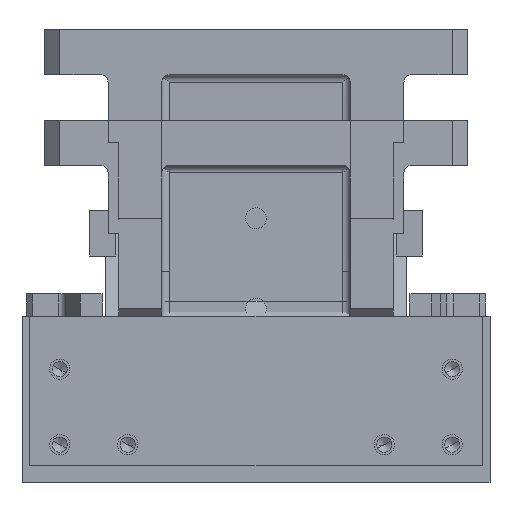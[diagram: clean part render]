
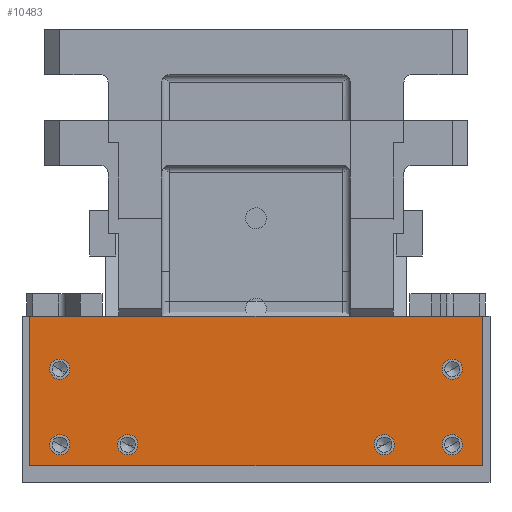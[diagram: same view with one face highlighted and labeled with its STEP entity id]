
A CAD part, left-side view. The second image highlights one B-rep face of the part: STEP entity #10483.
In plain terms, the highlighted planar face has unit normal (-1, 0, 0).
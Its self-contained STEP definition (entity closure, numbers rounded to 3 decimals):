
#8514=CARTESIAN_POINT('Vertex',(-12.,150.,110.)) ;
#8517=CARTESIAN_POINT('Line Origine',(-12.,0.,110.)) ;
#8521=CARTESIAN_POINT('Vertex',(-12.,-150.,110.)) ;
#10332=CARTESIAN_POINT('Vertex',(-12.,90.924,28.236)) ;
#10339=CARTESIAN_POINT('Vertex',(-12.,79.076,21.764)) ;
#10342=CARTESIAN_POINT('Axis2P3D Location',(-12.,85.,25.)) ;
#10354=CARTESIAN_POINT('Axis2P3D Location',(-12.,0.,0.)) ;
#10359=CARTESIAN_POINT('Line Origine',(-12.,150.,60.5)) ;
#10363=CARTESIAN_POINT('Vertex',(-12.,150.,11.)) ;
#10366=CARTESIAN_POINT('Line Origine',(-12.,0.,11.)) ;
#10370=CARTESIAN_POINT('Vertex',(-12.,-150.,11.)) ;
#10373=CARTESIAN_POINT('Line Origine',(-12.,-150.,60.5)) ;
#10384=CARTESIAN_POINT('Axis2P3D Location',(-12.,-130.,25.)) ;
#10388=CARTESIAN_POINT('Vertex',(-12.,-135.924,28.236)) ;
#10390=CARTESIAN_POINT('Vertex',(-12.,-124.076,21.764)) ;
#10393=CARTESIAN_POINT('Axis2P3D Location',(-12.,-130.,25.)) ;
#10402=CARTESIAN_POINT('Axis2P3D Location',(-12.,-130.,75.)) ;
#10406=CARTESIAN_POINT('Vertex',(-12.,-135.924,78.236)) ;
#10408=CARTESIAN_POINT('Vertex',(-12.,-124.076,71.764)) ;
#10411=CARTESIAN_POINT('Axis2P3D Location',(-12.,-130.,75.)) ;
#10420=CARTESIAN_POINT('Axis2P3D Location',(-12.,-85.,25.)) ;
#10424=CARTESIAN_POINT('Vertex',(-12.,-90.924,28.236)) ;
#10426=CARTESIAN_POINT('Vertex',(-12.,-79.076,21.764)) ;
#10429=CARTESIAN_POINT('Axis2P3D Location',(-12.,-85.,25.)) ;
#10438=CARTESIAN_POINT('Axis2P3D Location',(-12.,130.,25.)) ;
#10442=CARTESIAN_POINT('Vertex',(-12.,135.924,28.236)) ;
#10444=CARTESIAN_POINT('Vertex',(-12.,124.076,21.764)) ;
#10447=CARTESIAN_POINT('Axis2P3D Location',(-12.,130.,25.)) ;
#10456=CARTESIAN_POINT('Axis2P3D Location',(-12.,130.,75.)) ;
#10460=CARTESIAN_POINT('Vertex',(-12.,124.076,71.764)) ;
#10462=CARTESIAN_POINT('Vertex',(-12.,135.924,78.236)) ;
#10465=CARTESIAN_POINT('Axis2P3D Location',(-12.,130.,75.)) ;
#10474=CARTESIAN_POINT('Axis2P3D Location',(-12.,85.,25.)) ;
#8519=VECTOR('Line Direction',#8518,1.) ;
#10361=VECTOR('Line Direction',#10360,1.) ;
#10368=VECTOR('Line Direction',#10367,1.) ;
#10375=VECTOR('Line Direction',#10374,1.) ;
#8518=DIRECTION('Vector Direction',(0.,-1.,0.)) ;
#10343=DIRECTION('Axis2P3D Direction',(1.,0.,0.)) ;
#10355=DIRECTION('Axis2P3D Direction',(-1.,-0.,0.)) ;
#10356=DIRECTION('Axis2P3D XDirection',(0.,-1.,0.)) ;
#10360=DIRECTION('Vector Direction',(0.,0.,-1.)) ;
#10367=DIRECTION('Vector Direction',(0.,1.,0.)) ;
#10374=DIRECTION('Vector Direction',(0.,0.,-1.)) ;
#10385=DIRECTION('Axis2P3D Direction',(-1.,-0.,0.)) ;
#10394=DIRECTION('Axis2P3D Direction',(-1.,-0.,0.)) ;
#10403=DIRECTION('Axis2P3D Direction',(-1.,-0.,0.)) ;
#10412=DIRECTION('Axis2P3D Direction',(-1.,-0.,0.)) ;
#10421=DIRECTION('Axis2P3D Direction',(-1.,-0.,0.)) ;
#10430=DIRECTION('Axis2P3D Direction',(-1.,-0.,0.)) ;
#10439=DIRECTION('Axis2P3D Direction',(-1.,-0.,0.)) ;
#10448=DIRECTION('Axis2P3D Direction',(-1.,-0.,0.)) ;
#10457=DIRECTION('Axis2P3D Direction',(-1.,-0.,0.)) ;
#10466=DIRECTION('Axis2P3D Direction',(-1.,-0.,0.)) ;
#10475=DIRECTION('Axis2P3D Direction',(-1.,-0.,0.)) ;
#10344=AXIS2_PLACEMENT_3D('Circle Axis2P3D',#10342,#10343,$) ;
#10357=AXIS2_PLACEMENT_3D('Plane Axis2P3D',#10354,#10355,#10356) ;
#10386=AXIS2_PLACEMENT_3D('Circle Axis2P3D',#10384,#10385,$) ;
#10395=AXIS2_PLACEMENT_3D('Circle Axis2P3D',#10393,#10394,$) ;
#10404=AXIS2_PLACEMENT_3D('Circle Axis2P3D',#10402,#10403,$) ;
#10413=AXIS2_PLACEMENT_3D('Circle Axis2P3D',#10411,#10412,$) ;
#10422=AXIS2_PLACEMENT_3D('Circle Axis2P3D',#10420,#10421,$) ;
#10431=AXIS2_PLACEMENT_3D('Circle Axis2P3D',#10429,#10430,$) ;
#10440=AXIS2_PLACEMENT_3D('Circle Axis2P3D',#10438,#10439,$) ;
#10449=AXIS2_PLACEMENT_3D('Circle Axis2P3D',#10447,#10448,$) ;
#10458=AXIS2_PLACEMENT_3D('Circle Axis2P3D',#10456,#10457,$) ;
#10467=AXIS2_PLACEMENT_3D('Circle Axis2P3D',#10465,#10466,$) ;
#10476=AXIS2_PLACEMENT_3D('Circle Axis2P3D',#10474,#10475,$) ;
#8520=LINE('Line',#8517,#8519) ;
#10362=LINE('Line',#10359,#10361) ;
#10369=LINE('Line',#10366,#10368) ;
#10376=LINE('Line',#10373,#10375) ;
#10345=CIRCLE('generated circle',#10344,6.75) ;
#10387=CIRCLE('generated circle',#10386,6.75) ;
#10396=CIRCLE('generated circle',#10395,6.75) ;
#10405=CIRCLE('generated circle',#10404,6.75) ;
#10414=CIRCLE('generated circle',#10413,6.75) ;
#10423=CIRCLE('generated circle',#10422,6.75) ;
#10432=CIRCLE('generated circle',#10431,6.75) ;
#10441=CIRCLE('generated circle',#10440,6.75) ;
#10450=CIRCLE('generated circle',#10449,6.75) ;
#10459=CIRCLE('generated circle',#10458,6.75) ;
#10468=CIRCLE('generated circle',#10467,6.75) ;
#10477=CIRCLE('generated circle',#10476,6.75) ;
#10358=PLANE('',#10357) ;
#10401=FACE_BOUND('',#10398,.T.) ;
#10419=FACE_BOUND('',#10416,.T.) ;
#10437=FACE_BOUND('',#10434,.T.) ;
#10455=FACE_BOUND('',#10452,.T.) ;
#10473=FACE_BOUND('',#10470,.T.) ;
#10482=FACE_BOUND('',#10479,.T.) ;
#8523=EDGE_CURVE('',#8515,#8522,#8520,.T.) ;
#10346=EDGE_CURVE('',#10340,#10333,#10345,.F.) ;
#10365=EDGE_CURVE('',#8515,#10364,#10362,.T.) ;
#10372=EDGE_CURVE('',#10371,#10364,#10369,.T.) ;
#10377=EDGE_CURVE('',#8522,#10371,#10376,.T.) ;
#10392=EDGE_CURVE('',#10389,#10391,#10387,.F.) ;
#10397=EDGE_CURVE('',#10391,#10389,#10396,.F.) ;
#10410=EDGE_CURVE('',#10407,#10409,#10405,.F.) ;
#10415=EDGE_CURVE('',#10409,#10407,#10414,.F.) ;
#10428=EDGE_CURVE('',#10425,#10427,#10423,.F.) ;
#10433=EDGE_CURVE('',#10427,#10425,#10432,.F.) ;
#10446=EDGE_CURVE('',#10443,#10445,#10441,.T.) ;
#10451=EDGE_CURVE('',#10445,#10443,#10450,.T.) ;
#10464=EDGE_CURVE('',#10461,#10463,#10459,.T.) ;
#10469=EDGE_CURVE('',#10463,#10461,#10468,.T.) ;
#10478=EDGE_CURVE('',#10333,#10340,#10477,.T.) ;
#10378=EDGE_LOOP('',(#10379,#10380,#10381,#10382)) ;
#10398=EDGE_LOOP('',(#10399,#10400)) ;
#10416=EDGE_LOOP('',(#10417,#10418)) ;
#10434=EDGE_LOOP('',(#10435,#10436)) ;
#10452=EDGE_LOOP('',(#10453,#10454)) ;
#10470=EDGE_LOOP('',(#10471,#10472)) ;
#10479=EDGE_LOOP('',(#10480,#10481)) ;
#10379=ORIENTED_EDGE('',*,*,#10365,.T.) ;
#10380=ORIENTED_EDGE('',*,*,#10372,.F.) ;
#10381=ORIENTED_EDGE('',*,*,#10377,.F.) ;
#10382=ORIENTED_EDGE('',*,*,#8523,.F.) ;
#10399=ORIENTED_EDGE('',*,*,#10392,.T.) ;
#10400=ORIENTED_EDGE('',*,*,#10397,.T.) ;
#10417=ORIENTED_EDGE('',*,*,#10410,.T.) ;
#10418=ORIENTED_EDGE('',*,*,#10415,.T.) ;
#10435=ORIENTED_EDGE('',*,*,#10428,.T.) ;
#10436=ORIENTED_EDGE('',*,*,#10433,.T.) ;
#10453=ORIENTED_EDGE('',*,*,#10446,.F.) ;
#10454=ORIENTED_EDGE('',*,*,#10451,.F.) ;
#10471=ORIENTED_EDGE('',*,*,#10464,.F.) ;
#10472=ORIENTED_EDGE('',*,*,#10469,.F.) ;
#10480=ORIENTED_EDGE('',*,*,#10478,.F.) ;
#10481=ORIENTED_EDGE('',*,*,#10346,.F.) ;
#8515=VERTEX_POINT('',#8514) ;
#8522=VERTEX_POINT('',#8521) ;
#10333=VERTEX_POINT('',#10332) ;
#10340=VERTEX_POINT('',#10339) ;
#10364=VERTEX_POINT('',#10363) ;
#10371=VERTEX_POINT('',#10370) ;
#10389=VERTEX_POINT('',#10388) ;
#10391=VERTEX_POINT('',#10390) ;
#10407=VERTEX_POINT('',#10406) ;
#10409=VERTEX_POINT('',#10408) ;
#10425=VERTEX_POINT('',#10424) ;
#10427=VERTEX_POINT('',#10426) ;
#10443=VERTEX_POINT('',#10442) ;
#10445=VERTEX_POINT('',#10444) ;
#10461=VERTEX_POINT('',#10460) ;
#10463=VERTEX_POINT('',#10462) ;
#10483=ADVANCED_FACE('base',(#10383,#10401,#10419,#10437,#10455,#10473,#10482),#10358,.T.) ;
#10383=FACE_OUTER_BOUND('',#10378,.T.) ;
